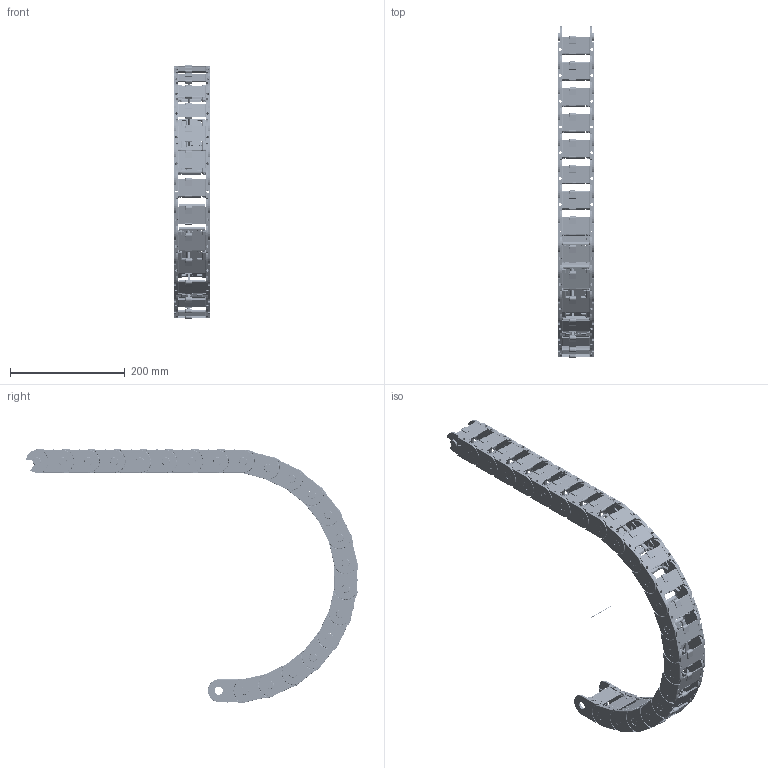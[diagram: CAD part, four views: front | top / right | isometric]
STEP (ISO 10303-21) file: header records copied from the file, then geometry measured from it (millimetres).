
FILE_DESCRIPTION((''),'2;1');
FILE_NAME('C:\Uebbing\PARAMETERKETTEN\KOLIBRI\Kol_40_062_2\Kol_40_062_2_R200.stp','2012-03-05T13:22:44',('Uebbing'),(''),'Autodesk Inventor 10','Autodesk Inventor 10','');
FILE_SCHEMA(('AUTOMOTIVE_DESIGN { 1 0 10303 214 1 1 1 1 }'));
Length unit declared in the file: millimetre
Products named in the file (6): KOLIBRI 40_062_2_PARAMETRISCH; Achse; Kol_40_062_2; Kol_40_062_2_PZ; Kol_40_062_2_Klappsteg
Assembly tree (26 placements, depth 3):
  KOLIBRI 40_062_2_PARAMETRISCH
    Achse
    Kol_40_062_2  x22
      Kol_40_062_2_PZ
      Kol_40_062_2
      Kol_40_062_2_Klappsteg
Bounding box: 63 x 578.65 x 442.97 mm (x, y, z)
Volume: 770596.2 mm3; surface area: 563000.8 mm2
Topology: 67 solids, 221 shells, 23939 faces, 63408 edges, 40989 vertices
Faces by surface type: bspline 10186, plane 9132, cylinder 3829, torus 484, sphere 220, cone 88
Full cylindrical faces by diameter (mm): 1 x1, 1.609 x22, 2.825 x22, 3.4 x88, 3.5 x44, 4 x88, 5 x22, 6 x22, 14 x22, 14.1 x22
Entity records: 38419 total; most frequent: CARTESIAN_POINT 13162, ORIENTED_EDGE 5674, DIRECTION 4311, EDGE_CURVE 2837, VERTEX_POINT 1853, VECTOR 1759, LINE 1759, AXIS2_PLACEMENT_3D 1276
